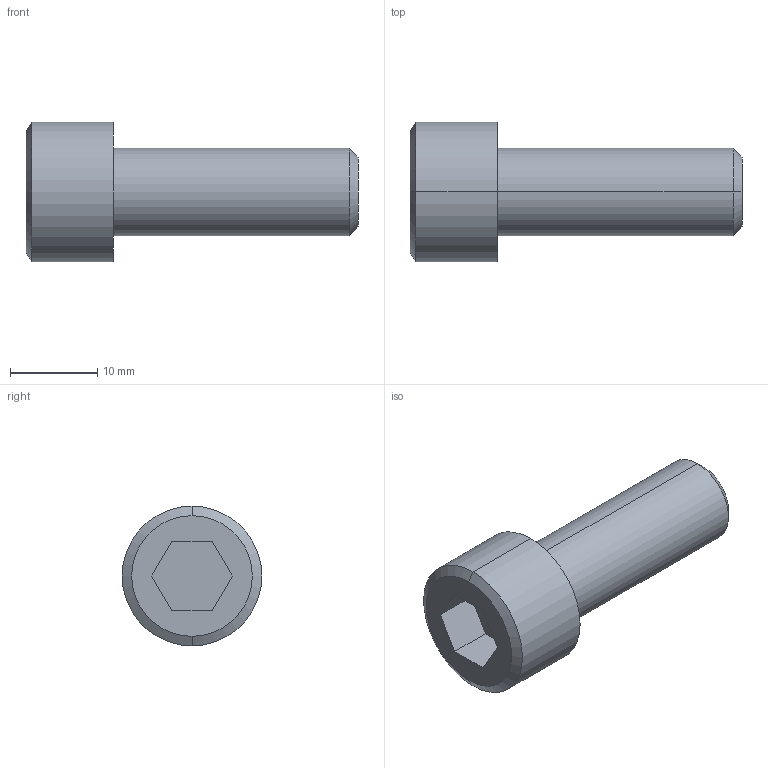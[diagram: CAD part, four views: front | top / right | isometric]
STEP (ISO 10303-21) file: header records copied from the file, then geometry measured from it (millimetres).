
FILE_DESCRIPTION (( 'STEP AP203' ), '1' );
FILE_NAME ('LZH0480-B.step', '2010-04-07T09:51:16', ( ' ' ), ( ' ' ), 'SwSTEP 2.0', 'SolidWorks 2009', '' );
FILE_SCHEMA (( 'CONFIG_CONTROL_DESIGN' ));
Length unit declared in the file: millimetre
Products named in the file (1): LZH0480-B
Bounding box: 38 x 16 x 16 mm (x, y, z)
Volume: 3900.6 mm3; surface area: 1878.7 mm2
Topology: 1 solids, 1 shells, 18 faces, 38 edges, 24 vertices
Faces by surface type: plane 10, cone 4, cylinder 4
Entity records: 559 total; most frequent: DIRECTION 88, CARTESIAN_POINT 81, ORIENTED_EDGE 76, EDGE_CURVE 38, AXIS2_PLACEMENT_3D 31, VECTOR 26, LINE 26, VERTEX_POINT 24
